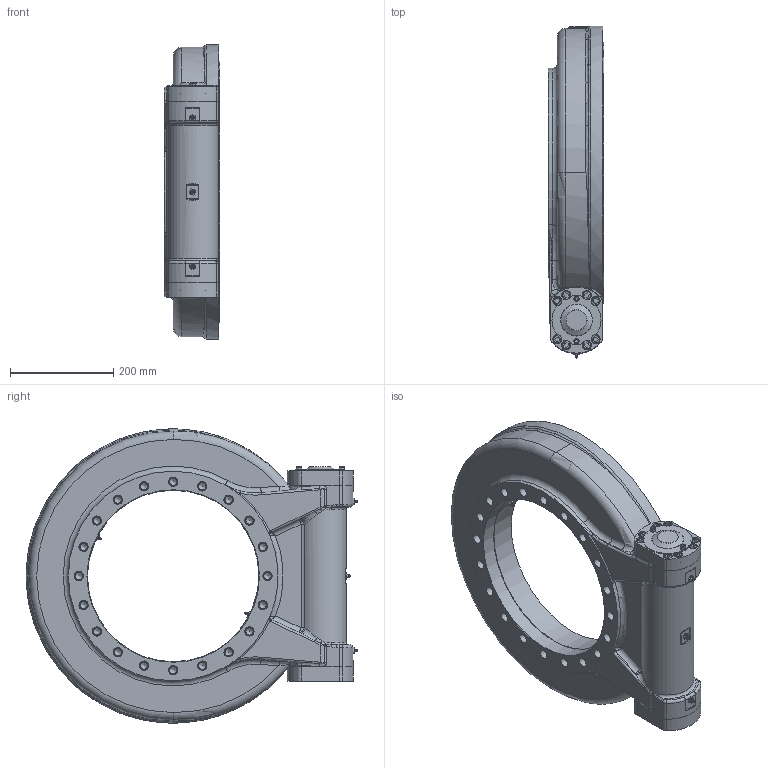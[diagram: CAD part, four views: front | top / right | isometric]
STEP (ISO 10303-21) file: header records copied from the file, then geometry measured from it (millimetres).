
FILE_DESCRIPTION (( 'STEP AP214' ), '1' );
FILE_NAME ('FWA17-104M-25H-R-REV.A.STEP', '2023-08-28T03:14:00', ( '' ), ( '' ), 'SwSTEP 2.0', 'SolidWorks 2018', '' );
FILE_SCHEMA (( 'AUTOMOTIVE_DESIGN' ));
Length unit declared in the file: millimetre
Products named in the file (1): FWA17-104M-25H-R-REV.A
Bounding box: 108 x 642.79 x 569.74 mm (x, y, z)
Volume: 12311996.9 mm3; surface area: 1860431.1 mm2
Topology: 17 solids, 17 shells, 1165 faces, 2537 edges, 1582 vertices
Faces by surface type: plane 449, cylinder 374, bspline 125, cone 110, torus 97, sphere 10
Full cylindrical faces by diameter (mm): 5 x2, 6 x2, 7 x8, 7.9 x3, 8.5 x16, 9 x1, 10 x31, 11 x16, 12 x2, 13 x4, 14 x40, 15 x4, 16 x56, 17.5 x16, 18 x20, 19 x1, 22 x1, 25.4 x1, 33.5 x1, 40 x5, 40.756 x1, 41.837 x1, 41.908 x1, 42.231 x1, 47 x1, 50 x3, 51.124 x1, 55 x2, 57 x1, 66 x2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
Entity records: 48200 total; most frequent: CARTESIAN_POINT 12639, DIRECTION 4682, ORIENTED_EDGE 3860, AXIS2_PLACEMENT_3D 2006, EDGE_CURVE 1930, EDGE_LOOP 1889, FACE_OUTER_BOUND 1493, VERTEX_POINT 1449
